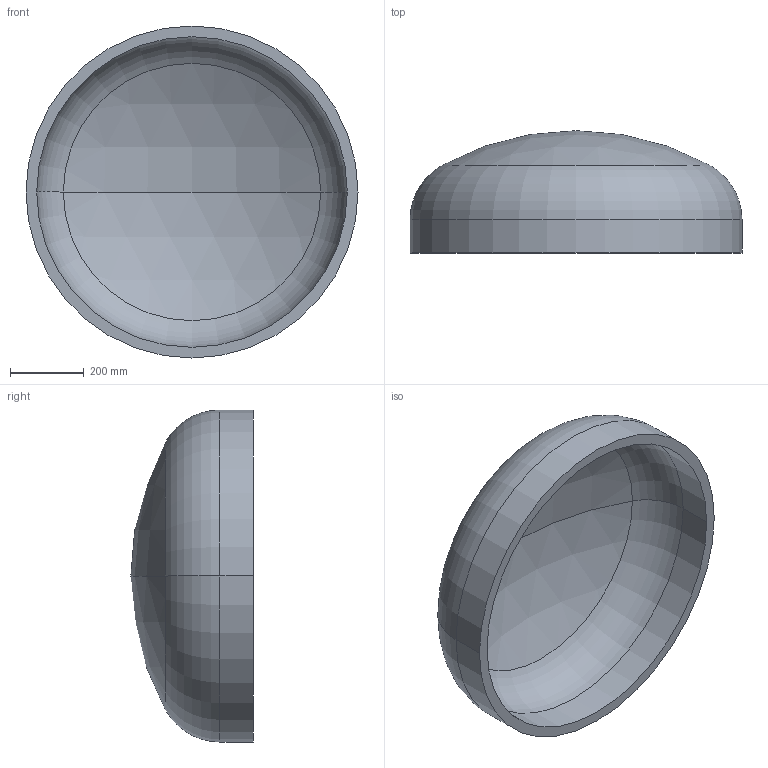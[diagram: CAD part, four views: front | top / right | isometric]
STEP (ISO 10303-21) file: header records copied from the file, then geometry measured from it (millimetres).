
FILE_DESCRIPTION (( 'STEP AP203' ), '1' );
FILE_NAME ('DIN 28013 Korbbogenform_-_Boden DIN 28013 - 900 x 90 - I - s=29.step', '2016-07-01T08:29:06', ( '' ), ( '' ), 'SwSTEP 2.0', 'SolidWorks 2013', '' );
FILE_SCHEMA (( 'CONFIG_CONTROL_DESIGN' ));
Length unit declared in the file: millimetre
Products named in the file (1): DIN 28013 Korbbogenform_-_Boden DIN 28013 - 900 x 90 - I - s=29
Bounding box: 900 x 331.62 x 900 mm (x, y, z)
Volume: 31691831.6 mm3; surface area: 2266757.9 mm2
Topology: 1 solids, 1 shells, 13 faces, 24 edges, 14 vertices
Faces by surface type: torus 4, cylinder 4, sphere 4, plane 1
Entity records: 407 total; most frequent: DIRECTION 72, CARTESIAN_POINT 52, ORIENTED_EDGE 48, AXIS2_PLACEMENT_3D 34, EDGE_CURVE 24, CIRCLE 20, VERTEX_POINT 14, EDGE_LOOP 14
